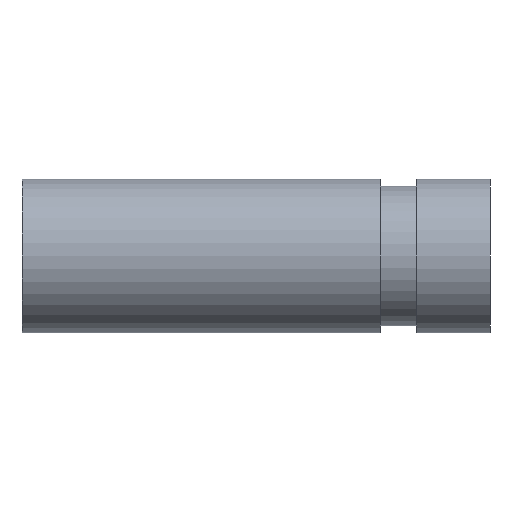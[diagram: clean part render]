
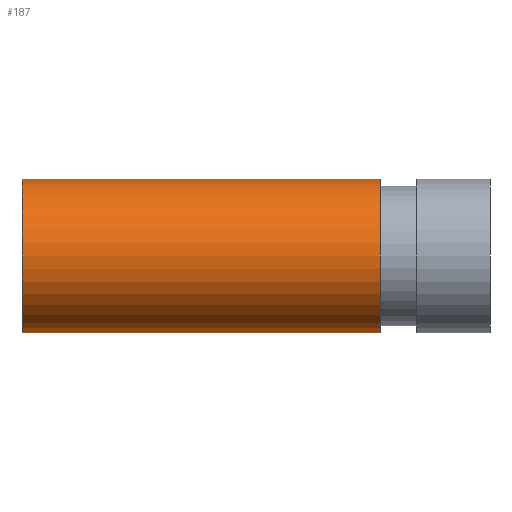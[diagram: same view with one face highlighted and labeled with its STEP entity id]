
A CAD part, front view. The second image highlights one B-rep face of the part: STEP entity #187.
In plain terms, the highlighted cylindrical face has radius 16.701 mm (diameter 33.401 mm), a full revolution.
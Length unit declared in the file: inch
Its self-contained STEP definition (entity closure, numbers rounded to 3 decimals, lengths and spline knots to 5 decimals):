
#53=FACE_OUTER_BOUND('',#61,.T.);
#61=EDGE_LOOP('',(#133,#134,#135,#136,#137,#138));
#73=LINE('',#339,#77);
#77=VECTOR('',#260,0.6575);
#81=CIRCLE('',#216,0.6575);
#82=CIRCLE('',#217,0.6575);
#83=CIRCLE('',#218,0.6575);
#84=CIRCLE('',#219,0.6575);
#97=VERTEX_POINT('',#334);
#98=VERTEX_POINT('',#335);
#99=VERTEX_POINT('',#338);
#100=VERTEX_POINT('',#340);
#113=EDGE_CURVE('',#97,#98,#81,.T.);
#114=EDGE_CURVE('',#98,#97,#82,.T.);
#115=EDGE_CURVE('',#98,#99,#73,.T.);
#116=EDGE_CURVE('',#99,#100,#83,.T.);
#117=EDGE_CURVE('',#100,#99,#84,.T.);
#133=ORIENTED_EDGE('',*,*,#113,.F.);
#134=ORIENTED_EDGE('',*,*,#114,.F.);
#135=ORIENTED_EDGE('',*,*,#115,.T.);
#136=ORIENTED_EDGE('',*,*,#116,.T.);
#137=ORIENTED_EDGE('',*,*,#117,.T.);
#138=ORIENTED_EDGE('',*,*,#115,.F.);
#173=CYLINDRICAL_SURFACE('',#215,0.6575);
#187=ADVANCED_FACE('',(#53),#173,.T.);
#215=AXIS2_PLACEMENT_3D('',#333,#254,#255);
#216=AXIS2_PLACEMENT_3D('',#336,#256,#257);
#217=AXIS2_PLACEMENT_3D('',#337,#258,#259);
#218=AXIS2_PLACEMENT_3D('',#341,#261,#262);
#219=AXIS2_PLACEMENT_3D('',#342,#263,#264);
#254=DIRECTION('center_axis',(1.,0.,0.));
#255=DIRECTION('ref_axis',(0.,1.,0.));
#256=DIRECTION('center_axis',(1.,0.,0.));
#257=DIRECTION('ref_axis',(0.,1.,0.));
#258=DIRECTION('center_axis',(1.,0.,0.));
#259=DIRECTION('ref_axis',(0.,1.,0.));
#260=DIRECTION('',(-1.,0.,0.));
#261=DIRECTION('center_axis',(1.,0.,0.));
#262=DIRECTION('ref_axis',(0.,1.,0.));
#263=DIRECTION('center_axis',(1.,0.,0.));
#264=DIRECTION('ref_axis',(0.,1.,0.));
#333=CARTESIAN_POINT('Origin',(0.061,0.,
0.));
#334=CARTESIAN_POINT('',(1.062,0.6575,0.));
#335=CARTESIAN_POINT('',(1.062,-0.6575,0.));
#336=CARTESIAN_POINT('Origin',(1.062,0.,0.));
#337=CARTESIAN_POINT('Origin',(1.062,0.,0.));
#338=CARTESIAN_POINT('',(-2.,-0.6575,0.));
#339=CARTESIAN_POINT('',(0.061,-0.6575,0.));
#340=CARTESIAN_POINT('',(-2.,0.6575,0.));
#341=CARTESIAN_POINT('Origin',(-2.,0.,0.));
#342=CARTESIAN_POINT('Origin',(-2.,0.,0.));
